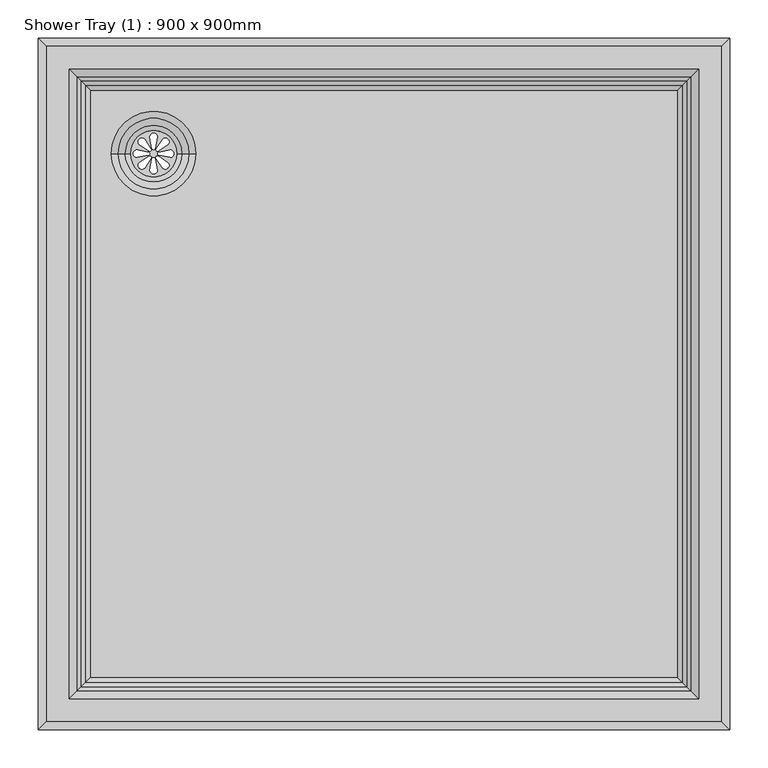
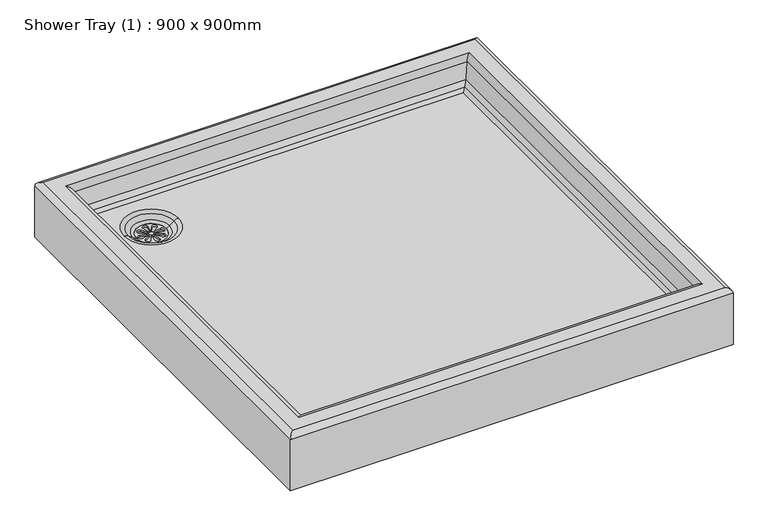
"""IFC4 building model written with IfcOpenShell, lengths in millimetres: flow terminal geometry, Shower Tray (1) : 900 x 900mm."""

from ifc_helpers import new_model, si_unit, point, frame, frame_2d, origin, place, context, project, spatial, polyline, circle_curve, ellipse_curve, trimmed, segment, composite_curve, outline, extrude, source, transform, mapped, element, save
from ifc_brep_helpers import plane_surface, cylinder_surface, revolved_surface, advanced_brep


def shower_tray_1_900_x_900mm_4f2a29ac(model_context):
    return source(origin(), model_context, "Body", "SolidModel", [
        extrude(outline(composite_curve([segment(trimmed(circle_curve(frame_2d((-300.0, 300.0)), 30.0), [point((-330.0, 300.0))], [point((-270.0, 300.0))], False, "CARTESIAN"), True, "CONTINUOUS"), segment(trimmed(circle_curve(frame_2d((-300.0, 300.0)), 30.0), [point((-270.0, 300.0))], [point((-330.0, 300.0))], False, "CARTESIAN"), True, "CONTINUOUS")], self_intersect=False), holes=[composite_curve([segment(polyline([(-298.0437984, 307.2242832), (-295.0173347, 321.5301417)]), True, "CONTINUOUS"), segment(trimmed(circle_curve(frame_2d((-300.0, 321.5301417)), 4.9826653), [point((-295.0173347, 321.5301417))], [point((-304.9826653, 321.5301417))], True, "CARTESIAN"), True, "CONTINUOUS"), segment(polyline([(-304.9826653, 321.5301417), (-302.1435586, 307.2242832)]), True, "CONTINUOUS"), segment(trimmed(circle_curve(frame_2d((-300.0936785, 307.2242832)), 2.0498801), [point((-302.1435586, 307.2242832))], [point((-298.0437984, 307.2242832))], True, "CARTESIAN"), True, "CONTINUOUS")], self_intersect=False), composite_curve([segment(trimmed(circle_curve(frame_2d((-300.0936785, 292.7757168)), 2.0498801), [point((-298.0437984, 292.7757168))], [point((-302.1435586, 292.7757168))], True, "CARTESIAN"), True, "CONTINUOUS"), segment(polyline([(-302.1435586, 292.7757168), (-304.9826653, 278.4698583)]), True, "CONTINUOUS"), segment(trimmed(circle_curve(frame_2d((-300.0, 278.4698583)), 4.9826653), [point((-304.9826653, 278.4698583))], [point((-295.0173347, 278.4698583))], True, "CARTESIAN"), True, "CONTINUOUS"), segment(polyline([(-295.0173347, 278.4698583), (-298.0437984, 292.7757168)]), True, "CONTINUOUS")], self_intersect=False), composite_curve([segment(polyline([(-307.2242832, 301.9562016), (-321.5301417, 304.9826653)]), True, "CONTINUOUS"), segment(trimmed(circle_curve(frame_2d((-321.5301417, 300.0)), 4.9826653), [point((-321.5301417, 304.9826653))], [point((-321.5301417, 295.0173347))], True, "CARTESIAN"), True, "CONTINUOUS"), segment(polyline([(-321.5301417, 295.0173347), (-307.2242832, 297.8564414)]), True, "CONTINUOUS"), segment(trimmed(circle_curve(frame_2d((-307.2242832, 299.9063215)), 2.0498801), [point((-307.2242832, 297.8564414))], [point((-307.2242832, 301.9562016))], True, "CARTESIAN"), True, "CONTINUOUS")], self_intersect=False), composite_curve([segment(trimmed(circle_curve(frame_2d((-292.7757168, 299.9063215)), 2.0498801), [point((-292.7757168, 301.9562016))], [point((-292.7757168, 297.8564414))], True, "CARTESIAN"), True, "CONTINUOUS"), segment(polyline([(-292.7757168, 297.8564414), (-278.4698583, 295.0173347)]), True, "CONTINUOUS"), segment(trimmed(circle_curve(frame_2d((-278.4698583, 300.0)), 4.9826653), [point((-278.4698583, 295.0173347))], [point((-278.4698583, 304.9826653))], True, "CARTESIAN"), True, "CONTINUOUS"), segment(polyline([(-278.4698583, 304.9826653), (-292.7757168, 301.9562016)]), True, "CONTINUOUS")], self_intersect=False), composite_curve([segment(polyline([(-303.7250963, 306.4915831), (-311.7008327, 318.7473856)]), True, "CONTINUOUS"), segment(trimmed(circle_curve(frame_2d((-315.2241092, 315.2241092)), 4.9826653), [point((-311.7008327, 318.7473856))], [point((-318.7473856, 311.7008327))], True, "CARTESIAN"), True, "CONTINUOUS"), segment(polyline([(-318.7473856, 311.7008327), (-306.6240645, 303.5926149)]), True, "CONTINUOUS"), segment(trimmed(circle_curve(frame_2d((-305.1745804, 305.042099)), 2.0498801), [point((-306.6240645, 303.5926149))], [point((-303.7250963, 306.4915831))], True, "CARTESIAN"), True, "CONTINUOUS")], self_intersect=False), composite_curve([segment(trimmed(circle_curve(frame_2d((-294.957901, 294.8254196)), 2.0498801), [point((-293.5084169, 296.2749037))], [point((-296.4073851, 293.3759355))], True, "CARTESIAN"), True, "CONTINUOUS"), segment(polyline([(-296.4073851, 293.3759355), (-288.2991673, 281.2526144)]), True, "CONTINUOUS"), segment(trimmed(circle_curve(frame_2d((-284.7758908, 284.7758908)), 4.9826653), [point((-288.2991673, 281.2526144))], [point((-281.2526144, 288.2991673))], True, "CARTESIAN"), True, "CONTINUOUS"), segment(polyline([(-281.2526144, 288.2991673), (-293.5084169, 296.2749037)]), True, "CONTINUOUS")], self_intersect=False), composite_curve([segment(polyline([(-306.4915831, 296.2749037), (-318.7473856, 288.2991673)]), True, "CONTINUOUS"), segment(trimmed(circle_curve(frame_2d((-315.2241092, 284.7758908)), 4.9826653), [point((-318.7473856, 288.2991673))], [point((-311.7008327, 281.2526144))], True, "CARTESIAN"), True, "CONTINUOUS"), segment(polyline([(-311.7008327, 281.2526144), (-303.5926149, 293.3759355)]), True, "CONTINUOUS"), segment(trimmed(circle_curve(frame_2d((-305.042099, 294.8254196)), 2.0498801), [point((-303.5926149, 293.3759355))], [point((-306.4915831, 296.2749037))], True, "CARTESIAN"), True, "CONTINUOUS")], self_intersect=False), composite_curve([segment(trimmed(circle_curve(frame_2d((-294.8254196, 305.042099)), 2.0498801), [point((-296.2749037, 306.4915831))], [point((-293.3759355, 303.5926149))], True, "CARTESIAN"), True, "CONTINUOUS"), segment(polyline([(-293.3759355, 303.5926149), (-281.2526144, 311.7008327)]), True, "CONTINUOUS"), segment(trimmed(circle_curve(frame_2d((-284.7758908, 315.2241092)), 4.9826653), [point((-281.2526144, 311.7008327))], [point((-288.2991673, 318.7473856))], True, "CARTESIAN"), True, "CONTINUOUS"), segment(polyline([(-288.2991673, 318.7473856), (-296.2749037, 306.4915831)]), True, "CONTINUOUS")], self_intersect=False)]), frame((0.0, 0.0, 43.429774), z_axis=(0.0, 0.0, 1.0), x_axis=(1.0, 0.0, 0.0)), (0.0, 0.0, 1.0), 3.0),
        advanced_brep(
        [(450.0, 450.0, 0.0), (450.0, 450.0, 110.0), (450.0, -450.0, 110.0), (450.0, -450.0, 0.0), (388.5950747, 388.5950747, 66.1486916), (382.446383, 382.446383, 60.0), (382.446383, -382.446383, 60.0), (388.5950747, -388.5950747, 66.1486916), (394.1490941, -394.1490941, 76.8178637), (394.1490941, 394.1490941, 76.8178637), (400.0, -400.0, 110.0), (400.0, 400.0, 110.0), (410.0, -410.0, 120.0), (410.0, 410.0, 120.0), (440.0, 440.0, 120.0), (440.0, -440.0, 120.0), (-450.0, -450.0, 110.0), (-450.0, -450.0, 0.0), (-382.446383, -382.446383, 60.0), (-388.5950747, -388.5950747, 66.1486916), (-394.1490941, -394.1490941, 76.8178637), (-400.0, -400.0, 110.0), (-410.0, -410.0, 120.0), (-440.0, -440.0, 120.0), (-450.0, 450.0, 110.0), (-450.0, 450.0, 0.0), (-382.446383, 382.446383, 60.0), (-388.5950747, 388.5950747, 66.1486916), (-394.1490941, 394.1490941, 76.8178637), (-400.0, 400.0, 110.0), (-410.0, 410.0, 120.0), (-440.0, 440.0, 120.0), (-330.0, 300.0, 0.0), (-270.0, 300.0, 0.0), (-355.0, 300.0, 60.0), (-245.0, 300.0, 60.0), (-270.0, 300.0, 46.429774), (-330.0, 300.0, 46.429774), (-263.3333333, 300.0, 50.0), (-336.6666667, 300.0, 50.0), (-254.0, 300.0, 57.0), (-346.0, 300.0, 57.0)],
        [
            (0, 1),
            (1, 2),
            (2, 3),
            (3, 0),
            (4, 5),
            (5, 6),
            (6, 7),
            (7, 4),
            (7, 8, ellipse_curve(frame((374.452939, -374.452939, 80.2908273), z_axis=(-0.7071067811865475, -0.7071067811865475, 0.0), x_axis=(0.7071067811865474, -0.7071067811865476, 0.0)), 28.2842712, 20.0)),
            (8, 9),
            (9, 4, ellipse_curve(frame((374.452939, 374.452939, 80.2908273), z_axis=(-0.7071067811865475, 0.7071067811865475, 0.0), x_axis=(-0.7071067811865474, -0.7071067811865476, 0.0)), 28.2842712, 20.0)),
            (8, 10),
            (10, 11),
            (11, 9),
            (10, 12, ellipse_curve(frame((410.0, -410.0, 110.0), z_axis=(0.7071067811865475, 0.7071067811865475, 0.0), x_axis=(-0.7071067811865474, 0.7071067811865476, 0.0)), 14.1421356, 10.0)),
            (12, 13),
            (13, 11, ellipse_curve(frame((410.0, 410.0, 110.0), z_axis=(0.7071067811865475, -0.7071067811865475, 0.0), x_axis=(0.7071067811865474, 0.7071067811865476, 0.0)), 14.1421356, 10.0)),
            (1, 14, ellipse_curve(frame((440.0, 440.0, 110.0), z_axis=(0.7071067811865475, -0.7071067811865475, 0.0), x_axis=(0.7071067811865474, 0.7071067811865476, 0.0)), 14.1421356, 10.0)),
            (14, 15),
            (15, 2, ellipse_curve(frame((440.0, -440.0, 110.0), z_axis=(0.7071067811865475, 0.7071067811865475, 0.0), x_axis=(-0.7071067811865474, 0.7071067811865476, 0.0)), 14.1421356, 10.0)),
            (2, 16),
            (16, 17),
            (17, 3),
            (6, 18),
            (18, 19),
            (19, 7),
            (19, 20, ellipse_curve(frame((-374.452939, -374.452939, 80.2908273), z_axis=(-0.7071067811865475, 0.7071067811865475, 0.0), x_axis=(-0.7071067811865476, -0.7071067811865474, 0.0)), 28.2842712, 20.0)),
            (20, 8),
            (20, 21),
            (21, 10),
            (21, 22, ellipse_curve(frame((-410.0, -410.0, 110.0), z_axis=(0.7071067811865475, -0.7071067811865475, 0.0), x_axis=(0.7071067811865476, 0.7071067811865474, 0.0)), 14.1421356, 10.0)),
            (22, 12),
            (15, 23),
            (23, 16, ellipse_curve(frame((-440.0, -440.0, 110.0), z_axis=(0.7071067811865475, -0.7071067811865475, 0.0), x_axis=(0.7071067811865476, 0.7071067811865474, 0.0)), 14.1421356, 10.0)),
            (16, 24),
            (24, 25),
            (25, 17),
            (18, 26),
            (26, 27),
            (27, 19),
            (27, 28, ellipse_curve(frame((-374.452939, 374.452939, 80.2908273), z_axis=(0.7071067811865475, 0.7071067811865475, 0.0), x_axis=(-0.7071067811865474, 0.7071067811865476, 0.0)), 28.2842712, 20.0)),
            (28, 20),
            (28, 29),
            (29, 21),
            (29, 30, ellipse_curve(frame((-410.0, 410.0, 110.0), z_axis=(-0.7071067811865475, -0.7071067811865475, 0.0), x_axis=(0.7071067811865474, -0.7071067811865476, 0.0)), 14.1421356, 10.0)),
            (30, 22),
            (23, 31),
            (31, 24, ellipse_curve(frame((-440.0, 440.0, 110.0), z_axis=(-0.7071067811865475, -0.7071067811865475, 0.0), x_axis=(0.7071067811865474, -0.7071067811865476, 0.0)), 14.1421356, 10.0)),
            (0, 25),
            (24, 1),
            (32, 33, circle_curve(frame((-300.0, 300.0, 0.0), z_axis=(0.0, 0.0, 1.0), x_axis=(1.0, 0.0, 0.0)), 30.0)),
            (33, 32, circle_curve(frame((-300.0, 300.0, 0.0), z_axis=(0.0, 0.0, 1.0), x_axis=(1.0, 0.0, 0.0)), 30.0)),
            (4, 27),
            (26, 5),
            (9, 28),
            (11, 29),
            (13, 30),
            (14, 31),
            (34, 35, circle_curve(frame((-300.0, 300.0, 60.0), z_axis=(0.0, 0.0, -1.0), x_axis=(1.0, 0.0, 0.0)), 55.0)),
            (35, 34, circle_curve(frame((-300.0, 300.0, 60.0), z_axis=(0.0, 0.0, -1.0), x_axis=(1.0, 0.0, 0.0)), 55.0)),
            (33, 36),
            (36, 37, circle_curve(frame((-300.0, 300.0, 46.429774), z_axis=(0.0, 0.0, 1.0), x_axis=(1.0, 0.0, 0.0)), 30.0)),
            (37, 32),
            (37, 36, circle_curve(frame((-300.0, 300.0, 46.429774), z_axis=(0.0, 0.0, 1.0), x_axis=(1.0, 0.0, 0.0)), 30.0)),
            (38, 39, circle_curve(frame((-300.0, 300.0, 50.0), z_axis=(0.0, 0.0, 1.0), x_axis=(1.0, 0.0, 0.0)), 36.6666667)),
            (39, 37, circle_curve(frame((-321.6666667, 300.0, 70.0), z_axis=(0.0, -1.0, 0.0), x_axis=(-1.0, 0.0, 0.0)), 25.0)),
            (36, 38, circle_curve(frame((-278.3333333, 300.0, 70.0), z_axis=(0.0, -1.0, 0.0), x_axis=(1.0, 0.0, 0.0)), 25.0)),
            (39, 38, circle_curve(frame((-300.0, 300.0, 50.0), z_axis=(0.0, 0.0, 1.0), x_axis=(1.0, 0.0, 0.0)), 36.6666667)),
            (38, 40),
            (40, 41, circle_curve(frame((-300.0, 300.0, 57.0), z_axis=(0.0, 0.0, 1.0), x_axis=(1.0, 0.0, 0.0)), 46.0)),
            (41, 39),
            (41, 40, circle_curve(frame((-300.0, 300.0, 57.0), z_axis=(0.0, 0.0, 1.0), x_axis=(1.0, 0.0, 0.0)), 46.0)),
            (40, 35, circle_curve(frame((-245.0, 300.0, 45.0), z_axis=(0.0, 1.0, 0.0), x_axis=(1.0, 0.0, 0.0)), 15.0)),
            (34, 41, circle_curve(frame((-355.0, 300.0, 45.0), z_axis=(0.0, 1.0, 0.0), x_axis=(-1.0, 0.0, 0.0)), 15.0)),
        ],
        [
            plane_surface(frame((450.0, 450.0, 110.0), z_axis=(1.0, 0.0, 0.0), x_axis=(0.0, -1.0, 0.0))),
            plane_surface(frame((382.446383, 382.446383, 60.0), z_axis=(-0.707106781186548, 0.0, 0.7071067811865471), x_axis=(0.0, -1.0, 0.0))),
            revolved_surface(polyline([(394.452939, -394.45293896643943, 80.2908273), (394.452939, 394.4529389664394, 80.2908273)]), (374.452939, 450.0, 80.2908273), (0.0, -1.0, 0.0)),
            plane_surface(frame((394.1490941, 394.1490941, 76.8178637), z_axis=(-0.984807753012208, 0.0, 0.17364817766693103), x_axis=(0.0, -1.0, 0.0))),
            cylinder_surface(frame((410.0, 450.0, 110.0), z_axis=(0.0, 1.0, 0.0), x_axis=(1.0, 0.0, 0.0)), 10.0),
            cylinder_surface(frame((440.0, 450.0, 110.0), z_axis=(0.0, 1.0, 0.0), x_axis=(1.0, 0.0, 0.0)), 10.0),
            plane_surface(frame((450.0, -450.0, 110.0), z_axis=(0.0, -1.0, 0.0), x_axis=(-1.0, 0.0, 0.0))),
            plane_surface(frame((382.446383, -382.446383, 60.0), z_axis=(0.0, 0.707106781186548, 0.7071067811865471), x_axis=(-1.0, 0.0, 0.0))),
            revolved_surface(polyline([(-394.45293896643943, -394.452939, 80.2908273), (394.4529389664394, -394.452939, 80.2908273)]), (450.0, -374.452939, 80.2908273), (-1.0, 0.0, 0.0)),
            plane_surface(frame((394.1490941, -394.1490941, 76.8178637), z_axis=(0.0, 0.984807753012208, 0.17364817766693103), x_axis=(-1.0, 0.0, 0.0))),
            cylinder_surface(frame((450.0, -410.0, 110.0), z_axis=(1.0, 0.0, 0.0), x_axis=(0.0, -1.0, 0.0)), 10.0),
            cylinder_surface(frame((450.0, -440.0, 110.0), z_axis=(1.0, 0.0, 0.0), x_axis=(0.0, -1.0, 0.0)), 10.0),
            plane_surface(frame((-450.0, -450.0, 110.0), z_axis=(-1.0, 0.0, 0.0), x_axis=(0.0, 1.0, 0.0))),
            plane_surface(frame((-382.446383, -382.446383, 60.0), z_axis=(0.707106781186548, 0.0, 0.7071067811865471), x_axis=(0.0, 1.0, 0.0))),
            revolved_surface(polyline([(-394.452939, 394.45293896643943, 80.2908273), (-394.452939, -394.4529389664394, 80.2908273)]), (-374.452939, -450.0, 80.2908273), (0.0, 1.0, 0.0)),
            plane_surface(frame((-394.1490941, -394.1490941, 76.8178637), z_axis=(0.984807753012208, 0.0, 0.17364817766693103), x_axis=(0.0, 1.0, 0.0))),
            cylinder_surface(frame((-410.0, -450.0, 110.0), z_axis=(0.0, -1.0, 0.0), x_axis=(-1.0, 0.0, 0.0)), 10.0),
            cylinder_surface(frame((-440.0, -450.0, 110.0), z_axis=(0.0, -1.0, 0.0), x_axis=(-1.0, 0.0, 0.0)), 10.0),
            plane_surface(frame((-450.0, 450.0, 110.0), z_axis=(0.0, 1.0, 0.0), x_axis=(1.0, 0.0, 0.0))),
            plane_surface(frame((-450.0, 450.0, 0.0), z_axis=(0.0, 0.0, -1.0), x_axis=(1.0, 0.0, 0.0))),
            plane_surface(frame((-382.446383, 382.446383, 60.0), z_axis=(0.0, -0.707106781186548, 0.7071067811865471), x_axis=(1.0, 0.0, 0.0))),
            revolved_surface(polyline([(394.45293896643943, 394.452939, 80.2908273), (-394.4529389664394, 394.452939, 80.2908273)]), (-450.0, 374.452939, 80.2908273), (1.0, 0.0, 0.0)),
            plane_surface(frame((-394.1490941, 394.1490941, 76.8178637), z_axis=(0.0, -0.984807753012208, 0.17364817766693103), x_axis=(1.0, 0.0, 0.0))),
            cylinder_surface(frame((-450.0, 410.0, 110.0), z_axis=(-1.0, 0.0, 0.0), x_axis=(0.0, 1.0, 0.0)), 10.0),
            plane_surface(frame((-410.0, 410.0, 120.0), z_axis=(0.0, 0.0, 1.0), x_axis=(1.0, 0.0, 0.0))),
            cylinder_surface(frame((-450.0, 440.0, 110.0), z_axis=(-1.0, 0.0, 0.0), x_axis=(0.0, 1.0, 0.0)), 10.0),
            plane_surface(frame((-270.0, 300.0, 60.0), z_axis=(0.0, 0.0, 1.0), x_axis=(0.0, -1.0, 0.0))),
            revolved_surface(polyline([(-270.0, 300.0, 0.0), (-270.0, 300.0, 46.429774)]), (-300.0, 300.0, 0.0), (0.0, 0.0, -1.0)),
            revolved_surface(trimmed(ellipse_curve(frame((-278.3333333, 300.0, 70.0), z_axis=(0.0, 1.0, 0.0), x_axis=(1.0, 0.0, 0.0)), 25.0, 25.0), [point((-263.3333333, 300.0, 50.0))], [point((-278.3333333, 300.0, 45.0))], True, "CARTESIAN"), (-300.0, 300.0, -508.0), (0.0, 0.0, 1.0)),
            revolved_surface(polyline([(-254.0, 300.0, 57.0), (-263.3333333, 300.0, 50.0)]), (-300.0, 300.0, -508.0), (0.0, 0.0, 1.0)),
            revolved_surface(trimmed(ellipse_curve(frame((-245.0, 300.0, 45.0), z_axis=(0.0, -1.0, 0.0), x_axis=(1.0, 0.0, 0.0)), 15.0, 15.0), [point((-245.0, 300.0, 60.0))], [point((-254.0, 300.0, 57.0))], True, "CARTESIAN"), (-300.0, 300.0, -508.0), (0.0, 0.0, 1.0)),
        ],
        [
            (0, [[1, 2, 3, 4]]),
            (1, [[5, 6, 7, 8]]),
            (2, [[-8, 9, 10, 11]]),
            (3, [[-10, 12, 13, 14]]),
            (4, [[-13, 15, 16, 17]]),
            (5, [[-2, 18, 19, 20]]),
            (6, [[-3, 21, 22, 23]]),
            (7, [[-7, 24, 25, 26]]),
            (8, [[-9, -26, 27, 28]]),
            (9, [[-12, -28, 29, 30]]),
            (10, [[-15, -30, 31, 32]]),
            (11, [[-20, 33, 34, -21]]),
            (12, [[-22, 35, 36, 37]]),
            (13, [[-25, 38, 39, 40]]),
            (14, [[-27, -40, 41, 42]]),
            (15, [[-29, -42, 43, 44]]),
            (16, [[-31, -44, 45, 46]]),
            (17, [[-34, 47, 48, -35]]),
            (18, [[-1, 49, -36, 50]]),
            (19, [[-4, -23, -37, -49], [51, 52]]),
            (20, [[-5, 53, -39, 54]]),
            (21, [[-11, 55, -41, -53]]),
            (22, [[-14, 56, -43, -55]]),
            (23, [[-17, 57, -45, -56]]),
            (24, [[-19, 58, -47, -33], [-16, -32, -46, -57]]),
            (25, [[-18, -50, -48, -58]]),
            (26, [[-6, -54, -38, -24], [59, 60]]),
            (27, [[-52, 61, 62, 63]]),
            (27, [[-51, -63, 64, -61]]),
            (28, [[65, 66, -62, 67]]),
            (28, [[68, -67, -64, -66]]),
            (29, [[-65, 69, 70, 71]]),
            (29, [[-68, -71, 72, -69]]),
            (30, [[-70, 73, -59, 74]]),
            (30, [[-72, -74, -60, -73]]),
        ],
    ),
    ])


if __name__ == "__main__":
    model = new_model("IFC4")
    model_context = context("Model", 3, world=origin())
    ifc_project = project(units=[si_unit("LENGTHUNIT", "METRE", prefix="MILLI")], contexts=[model_context])
    site = spatial("IfcSite", under=ifc_project)
    building = spatial("IfcBuilding", under=site)
    placement = place(None, origin())
    shower_tray_1_900_x_900mm_shape = shower_tray_1_900_x_900mm_4f2a29ac(model_context)
    element("IfcFlowTerminal", 1, ObjectType="Shower Tray (1) : 900 x 900mm", at=placement, inside=building, context=model_context, shape_type="MappedRepresentation", body=[
        mapped(shower_tray_1_900_x_900mm_shape, transform((0.0, 0.0, 0.0), x_axis=(1.0, 0.0, 0.0), y_axis=(0.0, 1.0, 0.0), z_axis=(0.0, 0.0, 1.0))),
    ])
    save(model, "model.ifc")
